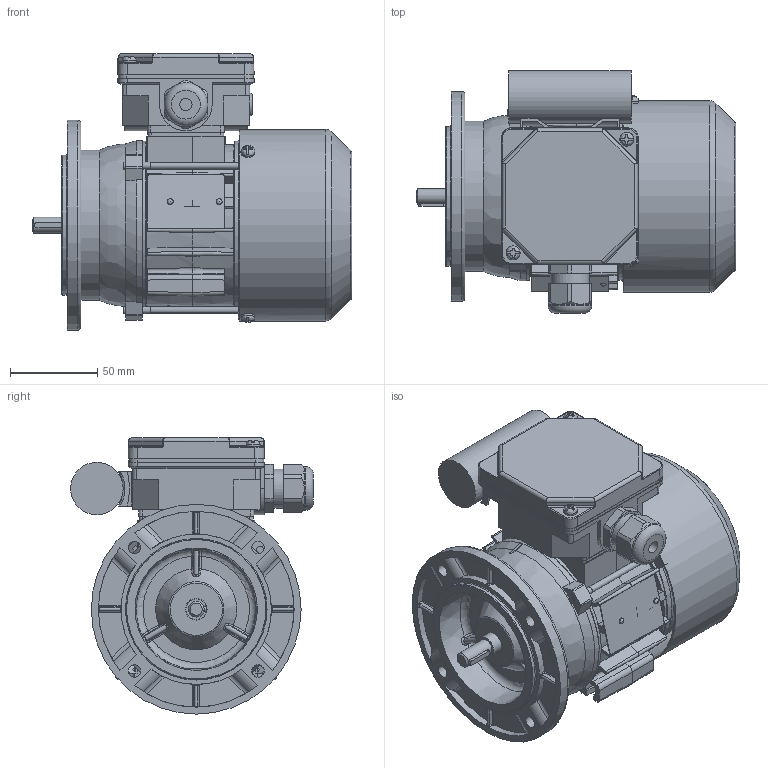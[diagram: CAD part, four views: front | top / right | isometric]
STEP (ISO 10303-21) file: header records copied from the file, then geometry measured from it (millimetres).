
FILE_DESCRIPTION( ( 'Unknown' ), '1' );
FILE_NAME( 'G:/Poczta Tk-1/STP/w.m.56/SEh56/SE(M)Kh56-A.stp', 'Unknown', ( 'K. Szlosek' ), ( 'BESEL S.A.' ), 'PSStep 17.0.49', 'Unknown', ' ' );
FILE_SCHEMA( ( 'AUTOMOTIVE_DESIGN { 1 0 10303 214 1 1 1 1 }' ) );
Length unit declared in the file: millimetre
Products named in the file (31): Assem1; K4-2320 Uszczelka nr 1 Sh71,80; K1-0512 Tarcza kołnierzowa B5  SKg56-..; K3-9987 kadłub ze stojanem Sh56-B; K3-2193 Tarcza łożyskowa P Sg56-2..; K3-9990 wał Sh56-B; K2-0860 Pokrywka skrzynki zaciskowej; Wpust A3x3x16; K4-2820 Uszczelka nr 2 Sh71,80; Wkręt samogwintujący M4x8; Wkręt samogwintujący M4x16; K2-0879 Przewietrznik Sg56; Nitokołek A 2x6; K3-9440 Podstawa  skrzynki zaciskowej SEhR71-D; K4-0898 Tulejka uszczelniająca; K3-1974 Uchwyt kondensatora (mały); Kondensator bb 8uF; K3-11363 Osłona przewietrznika Sh 56_A; Śruba ściągająca E_M4x75; Tabliczka znamionowa 32x44; Łożysko 6201; Dławnica M20x1,5
Assembly tree (46 placements, depth 2):
  Assem1
    K4-2320 Uszczelka nr 1 Sh71,80
    K1-0512 Tarcza kołnierzowa B5  SKg56-..
    K3-9987 kadłub ze stojanem Sh56-B
    K3-2193 Tarcza łożyskowa P Sg56-2..
    K3-9990 wał Sh56-B
    K2-0860 Pokrywka skrzynki zaciskowej
    Wpust A3x3x16
    K4-2820 Uszczelka nr 2 Sh71,80
    Wkręt samogwintujący M4x8  x3
    Wkręt samogwintujący M4x16  x2
    K2-0879 Przewietrznik Sg56
    Nitokołek A 2x6  x2
    K3-9440 Podstawa  skrzynki zaciskowej SEhR71-D
    K4-0898 Tulejka uszczelniająca
    K3-1974 Uchwyt kondensatora (mały)
    Kondensator bb 8uF
    K3-11363 Osłona przewietrznika Sh 56_A
    Śruba ściągająca E_M4x75  x3
    Tabliczka znamionowa 32x44
    Łożysko 6201  x2
    Łożysko 6201  x2
    Łożysko 6201  x2
    Łożysko 6201  x2
    Łożysko 6201  x2
    Łożysko 6201  x2
    Łożysko 6201  x2
    Łożysko 6201  x2
    Łożysko 6201  x2
    Łożysko 6201  x2
    Dławnica M20x1,5
Bounding box: 183 x 138.82 x 158 mm (x, y, z)
Volume: 476500.9 mm3; surface area: 308782.9 mm2
Topology: 46 solids, 62 shells, 1839 faces, 4950 edges, 3201 vertices
Faces by surface type: plane 934, cylinder 550, bspline 119, cone 104, torus 98, sphere 34
Full cylindrical faces by diameter (mm): 2 x2, 2.4 x2, 3 x1, 3.3 x3, 3.5 x2, 3.7 x10, 4 x8, 4.5 x4, 4.6 x2, 4.8 x4, 5 x4, 6.5 x1, 7 x8, 8 x6, 9 x1, 10 x2, 10.9 x1, 11 x1, 11.5 x1, 11.8 x2, 12 x4, 12.4 x2, 15.5 x1, 16 x1, 16.1 x1, 17 x2, 18.38 x1, 18.5 x1, 18.52 x4, 20 x1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
Entity records: 81260 total; most frequent: CARTESIAN_POINT 27098, ORIENTED_EDGE 8500, DIRECTION 8388, EDGE_CURVE 4250, AXIS2_PLACEMENT_3D 3110, VERTEX_POINT 2880, LINE 2168, VECTOR 2168
